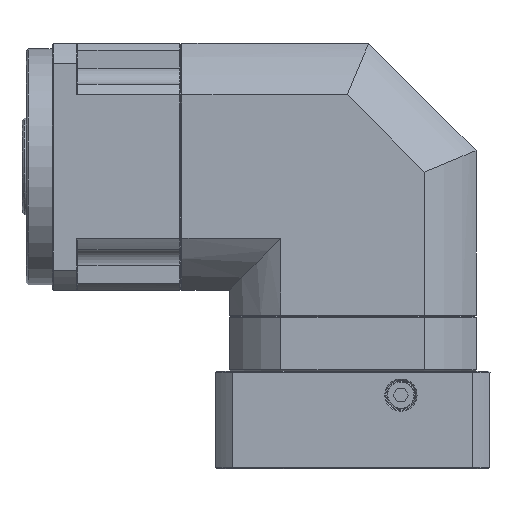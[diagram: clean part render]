
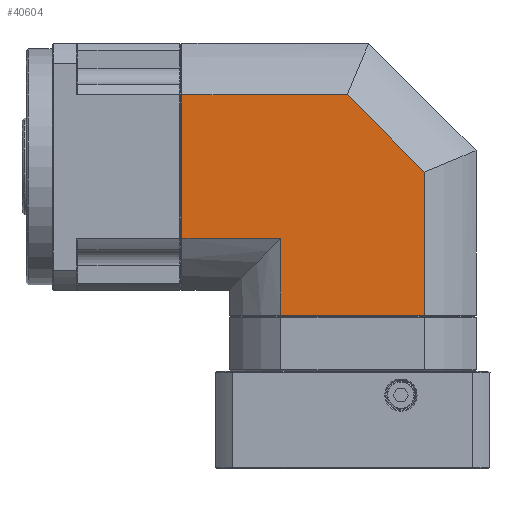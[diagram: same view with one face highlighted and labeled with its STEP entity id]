
A CAD part, left-side view. The second image highlights one B-rep face of the part: STEP entity #40604.
In plain terms, the highlighted planar face has unit normal (1, 0, 0).
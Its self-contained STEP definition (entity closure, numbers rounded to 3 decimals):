
#582 = VECTOR ( 'NONE', #30002, 1000. ) ;
#1654 = VECTOR ( 'NONE', #34297, 1000. ) ;
#2403 = DIRECTION ( 'NONE',  ( 0., 1., 0. ) ) ;
#2852 = ORIENTED_EDGE ( 'NONE', *, *, #10977, .T. ) ;
#2947 = VERTEX_POINT ( 'NONE', #75397 ) ;
#4016 = EDGE_CURVE ( 'NONE', #5107, #64510, #65951, .T. ) ;
#5107 = VERTEX_POINT ( 'NONE', #72481 ) ;
#5546 = CARTESIAN_POINT ( 'NONE',  ( -57.5, -35.111, -33.407 ) ) ;
#5969 = LINE ( 'NONE', #47752, #1654 ) ;
#6394 = VERTEX_POINT ( 'NONE', #25913 ) ;
#8876 = CARTESIAN_POINT ( 'NONE',  ( -57.5, -148.018, -17.897 ) ) ;
#8946 = PLANE ( 'NONE',  #55717 ) ;
#9608 = DIRECTION ( 'NONE',  ( 0., 0., -1. ) ) ;
#9742 = ORIENTED_EDGE ( 'NONE', *, *, #4016, .F. ) ;
#10449 = CARTESIAN_POINT ( 'NONE',  ( -57.5, -112.131, 33.407 ) ) ;
#10977 = EDGE_CURVE ( 'NONE', #49985, #6394, #28910, .T. ) ;
#12871 = DIRECTION ( 'NONE',  ( 0., 0.707, 0.707 ) ) ;
#13583 = VECTOR ( 'NONE', #49707, 1000. ) ;
#19560 = DIRECTION ( 'NONE',  ( 0., 1., 0. ) ) ;
#23143 = CARTESIAN_POINT ( 'NONE',  ( -57.5, -58.296, -33.407 ) ) ;
#23475 = LINE ( 'NONE', #46696, #71575 ) ;
#24018 = LINE ( 'NONE', #77399, #58202 ) ;
#25913 = CARTESIAN_POINT ( 'NONE',  ( -57.5, -35.111, 33.407 ) ) ;
#26116 = EDGE_CURVE ( 'NONE', #64510, #53468, #36258, .T. ) ;
#28551 = ORIENTED_EDGE ( 'NONE', *, *, #55243, .F. ) ;
#28910 = LINE ( 'NONE', #79514, #44926 ) ;
#30002 = DIRECTION ( 'NONE',  ( 0., 1., 0. ) ) ;
#34297 = DIRECTION ( 'NONE',  ( 0., -1., 0. ) ) ;
#36258 = LINE ( 'NONE', #60636, #54452 ) ;
#40604 = ADVANCED_FACE ( 'NONE', ( #79479 ), #8946, .T. ) ;
#42548 = VERTEX_POINT ( 'NONE', #58956 ) ;
#43233 = DIRECTION ( 'NONE',  ( 1., 0., 0. ) ) ;
#44926 = VECTOR ( 'NONE', #45422, 1000. ) ;
#45422 = DIRECTION ( 'NONE',  ( 0., 0., 1. ) ) ;
#46696 = CARTESIAN_POINT ( 'NONE',  ( -57.5, -91.564, 33.407 ) ) ;
#47752 = CARTESIAN_POINT ( 'NONE',  ( -57.5, -91.564, -69.2 ) ) ;
#49707 = DIRECTION ( 'NONE',  ( 0., 0., 1. ) ) ;
#49985 = VERTEX_POINT ( 'NONE', #5546 ) ;
#51182 = ORIENTED_EDGE ( 'NONE', *, *, #52775, .F. ) ;
#52775 = EDGE_CURVE ( 'NONE', #53468, #6394, #23475, .T. ) ;
#53468 = VERTEX_POINT ( 'NONE', #10449 ) ;
#54452 = VECTOR ( 'NONE', #12871, 1000. ) ;
#55031 = LINE ( 'NONE', #23143, #582 ) ;
#55125 = CARTESIAN_POINT ( 'NONE',  ( -57.5, -148.018, -2.48 ) ) ;
#55243 = EDGE_CURVE ( 'NONE', #2947, #42548, #24018, .T. ) ;
#55717 = AXIS2_PLACEMENT_3D ( 'NONE', #84152, #43233, #2403 ) ;
#57151 = ORIENTED_EDGE ( 'NONE', *, *, #64691, .T. ) ;
#58202 = VECTOR ( 'NONE', #9608, 1000. ) ;
#58956 = CARTESIAN_POINT ( 'NONE',  ( -57.5, -81.205, -69.2 ) ) ;
#59066 = EDGE_CURVE ( 'NONE', #42548, #5107, #5969, .T. ) ;
#60636 = CARTESIAN_POINT ( 'NONE',  ( -57.5, -155.375, -9.837 ) ) ;
#64510 = VERTEX_POINT ( 'NONE', #55125 ) ;
#64691 = EDGE_CURVE ( 'NONE', #2947, #49985, #55031, .T. ) ;
#65951 = LINE ( 'NONE', #8876, #13583 ) ;
#71575 = VECTOR ( 'NONE', #19560, 1000. ) ;
#71990 = EDGE_LOOP ( 'NONE', ( #2852, #51182, #85288, #9742, #74608, #28551, #57151 ) ) ;
#72481 = CARTESIAN_POINT ( 'NONE',  ( -57.5, -148.018, -69.2 ) ) ;
#74608 = ORIENTED_EDGE ( 'NONE', *, *, #59066, .F. ) ;
#75397 = CARTESIAN_POINT ( 'NONE',  ( -57.5, -81.205, -33.407 ) ) ;
#77399 = CARTESIAN_POINT ( 'NONE',  ( -57.5, -81.205, -17.897 ) ) ;
#79479 = FACE_OUTER_BOUND ( 'NONE', #71990, .T. ) ;
#79514 = CARTESIAN_POINT ( 'NONE',  ( -57.5, -35.111, 0. ) ) ;
#84152 = CARTESIAN_POINT ( 'NONE',  ( -57.5, -148.018, -69.2 ) ) ;
#85288 = ORIENTED_EDGE ( 'NONE', *, *, #26116, .F. ) ;
